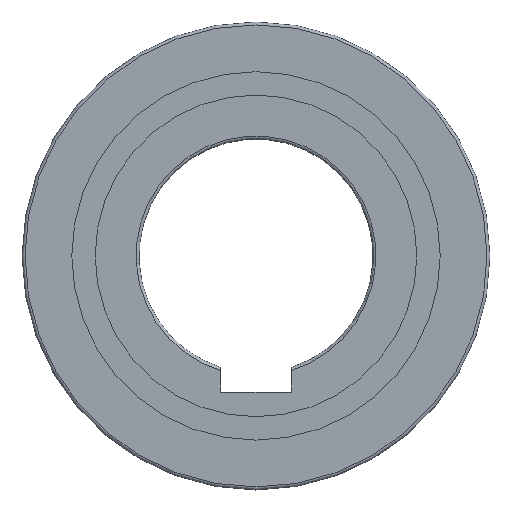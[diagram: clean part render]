
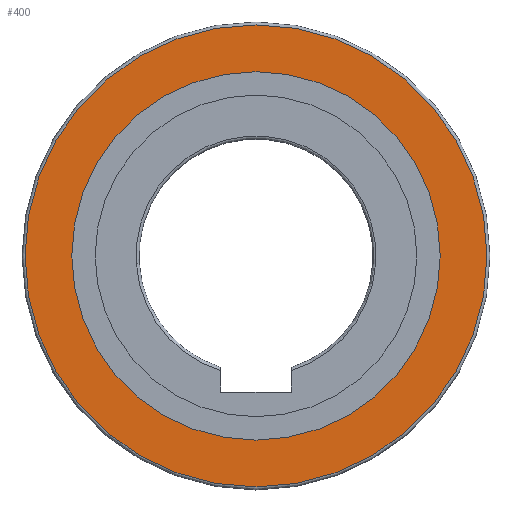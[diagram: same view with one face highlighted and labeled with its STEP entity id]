
A CAD part, top view. The second image highlights one B-rep face of the part: STEP entity #400.
In plain terms, the highlighted planar face has unit normal (0, 0, 1).
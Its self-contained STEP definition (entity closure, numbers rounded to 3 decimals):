
#400=ADVANCED_FACE('',(#675,#676),#472,.T.);
#472=PLANE('',#1454);
#675=FACE_BOUND('',#741,.T.);
#676=FACE_BOUND('',#742,.T.);
#741=EDGE_LOOP('',(#859));
#742=EDGE_LOOP('',(#860));
#859=ORIENTED_EDGE('',*,*,#1247,.T.);
#860=ORIENTED_EDGE('',*,*,#1243,.F.);
#1139=VERTEX_POINT('',#1966);
#1143=VERTEX_POINT('',#1976);
#1243=EDGE_CURVE('',#1139,#1139,#1379,.T.);
#1247=EDGE_CURVE('',#1143,#1143,#1383,.T.);
#1379=CIRCLE('',#1447,31.5);
#1383=CIRCLE('',#1453,39.5);
#1447=AXIS2_PLACEMENT_3D('',#1965,#1605,#1606);
#1453=AXIS2_PLACEMENT_3D('',#1975,#1617,#1618);
#1454=AXIS2_PLACEMENT_3D('',#1977,#1619,#1620);
#1605=DIRECTION('',(0.,0.,1.));
#1606=DIRECTION('',(1.,0.,0.));
#1617=DIRECTION('',(0.,0.,1.));
#1618=DIRECTION('',(1.,0.,0.));
#1619=DIRECTION('',(0.,0.,1.));
#1620=DIRECTION('',(1.,0.,0.));
#1965=CARTESIAN_POINT('',(0.,0.,18.));
#1966=CARTESIAN_POINT('',(31.5,0.,18.));
#1975=CARTESIAN_POINT('',(0.,0.,18.));
#1976=CARTESIAN_POINT('',(39.5,0.,18.));
#1977=CARTESIAN_POINT('',(0.,0.,18.));
